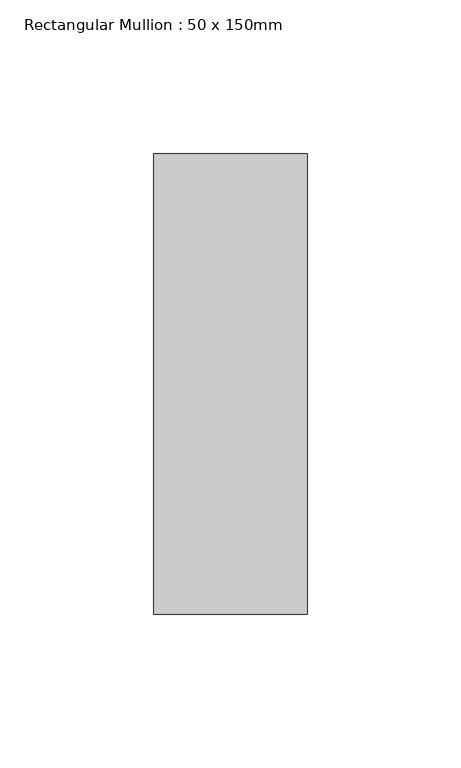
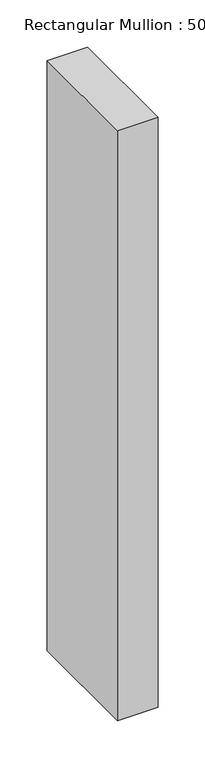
"""IFC4 building model written with IfcOpenShell, lengths in millimetres: member geometry, Rectangular Mullion : 50 x 150mm."""

from ifc_helpers import new_model, si_unit, frame, origin, place, context, project, spatial, polyline, outline, extrude, source, transform, mapped, element, save


def rectangular_mullion_50_x_150mm_b753879e(model_context):
    return source(origin(), model_context, "Body", "SweptSolid", [
        extrude(outline(polyline([(25.0, 75.0), (25.0, -75.0), (-25.0, -75.0), (-25.0, 75.0), (25.0, 75.0)])), frame((0.0, 0.0, -766.2848986), z_axis=(0.0, 0.0, 1.0), x_axis=(1.0, 0.0, 0.0)), (0.0, 0.0, 1.0), 766.2848986),
    ])


if __name__ == "__main__":
    model = new_model("IFC4")
    model_context = context("Model", 3, world=origin())
    ifc_project = project(units=[si_unit("LENGTHUNIT", "METRE", prefix="MILLI")], contexts=[model_context])
    site = spatial("IfcSite", under=ifc_project)
    building = spatial("IfcBuilding", under=site)
    placement = place(None, origin())
    rectangular_mullion_50_x_150mm_shape = rectangular_mullion_50_x_150mm_b753879e(model_context)
    element("IfcMember", 1, ObjectType="Rectangular Mullion : 50 x 150mm", at=placement, inside=building, context=model_context, shape_type="MappedRepresentation", body=[
        mapped(rectangular_mullion_50_x_150mm_shape, transform((0.0, 0.0, 0.0), x_axis=(1.0, 0.0, 0.0), y_axis=(0.0, 1.0, 0.0), z_axis=(0.0, 0.0, 1.0))),
    ])
    save(model, "model.ifc")
